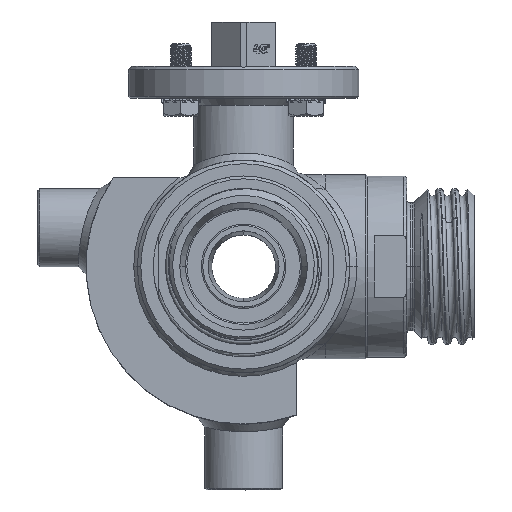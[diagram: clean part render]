
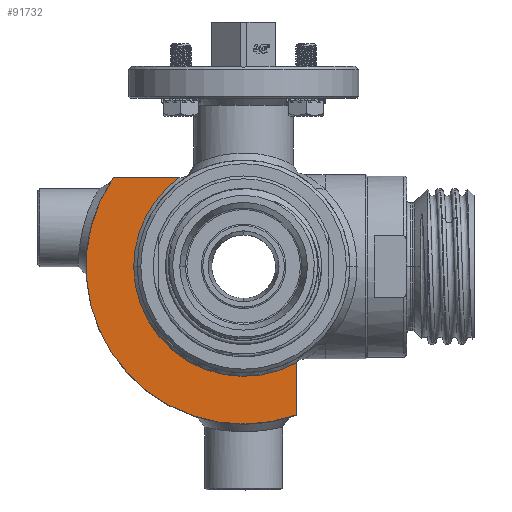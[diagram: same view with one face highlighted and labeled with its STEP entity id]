
A CAD part, top view. The second image highlights one B-rep face of the part: STEP entity #91732.
In plain terms, the highlighted planar face has unit normal (0, 0, 1).
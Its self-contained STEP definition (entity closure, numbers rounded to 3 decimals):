
#508=CARTESIAN_POINT('',(0.,0.,31.));
#509=DIRECTION('',(0.,0.,-1.));
#510=DIRECTION('',(-1.,0.,0.));
#511=AXIS2_PLACEMENT_3D('',#508,#509,#510);
#516=CARTESIAN_POINT('',(0.,0.,31.));
#517=DIRECTION('',(0.,0.,-1.));
#518=DIRECTION('',(0.484,-0.875,0.));
#519=AXIS2_PLACEMENT_3D('',#516,#517,#518);
#524=DIRECTION('',(0.,-1.,0.));
#525=VECTOR('',#524,14.713);
#526=CARTESIAN_POINT('',(15.,-27.129,31.));
#527=LINE('',#526,#525);
#531=CARTESIAN_POINT('',(0.,0.,31.));
#532=DIRECTION('',(0.,0.,-1.));
#533=DIRECTION('',(0.337,-0.941,0.));
#534=AXIS2_PLACEMENT_3D('',#531,#532,#533);
#539=DIRECTION('',(1.,0.,0.));
#540=VECTOR('',#539,18.423);
#541=CARTESIAN_POINT('',(-36.753,25.,31.));
#542=LINE('',#541,#540);
#87058=CARTESIAN_POINT('',(15.,-41.843,31.));
#87059=CARTESIAN_POINT('',(-36.753,25.,31.));
#87060=VERTEX_POINT('',#87058);
#87061=VERTEX_POINT('',#87059);
#87140=CARTESIAN_POINT('',(-31.,0.,31.));
#87141=CARTESIAN_POINT('',(-18.33,25.,31.));
#87142=VERTEX_POINT('',#87140);
#87143=VERTEX_POINT('',#87141);
#87144=CARTESIAN_POINT('',(15.,-27.129,31.));
#87145=VERTEX_POINT('',#87144);
#91717=CARTESIAN_POINT('',(0.,0.,31.));
#91718=DIRECTION('',(0.,0.,-1.));
#91719=DIRECTION('',(-1.,0.,0.));
#91720=AXIS2_PLACEMENT_3D('',#91717,#91718,#91719);
#91721=PLANE('',#91720);
#91722=ORIENTED_EDGE('',*,*,#91702,.F.);
#91723=ORIENTED_EDGE('',*,*,#91317,.F.);
#91725=ORIENTED_EDGE('',*,*,#91724,.T.);
#91727=ORIENTED_EDGE('',*,*,#91726,.T.);
#91729=ORIENTED_EDGE('',*,*,#91728,.T.);
#91730=EDGE_LOOP('',(#91722,#91723,#91725,#91727,#91729));
#91731=FACE_OUTER_BOUND('',#91730,.F.);
#91732=ADVANCED_FACE('',(#91731),#91721,.F.);
#512=CIRCLE('',#511,31.);
#520=CIRCLE('',#519,31.);
#535=CIRCLE('',#534,44.45);
#91317=EDGE_CURVE('',#87145,#87142,#520,.T.);
#91702=EDGE_CURVE('',#87142,#87143,#512,.T.);
#91724=EDGE_CURVE('',#87145,#87060,#527,.T.);
#91726=EDGE_CURVE('',#87060,#87061,#535,.T.);
#91728=EDGE_CURVE('',#87061,#87143,#542,.T.);
